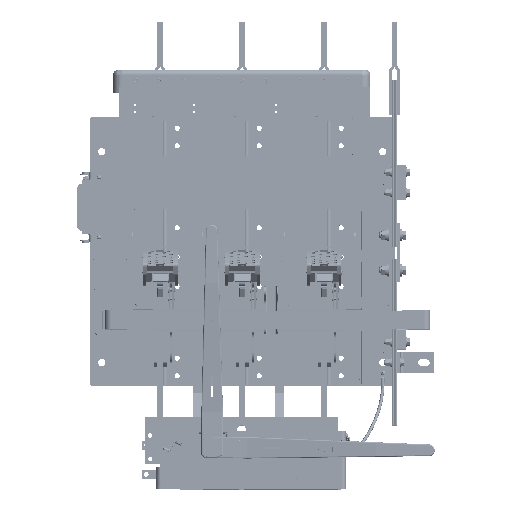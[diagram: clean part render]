
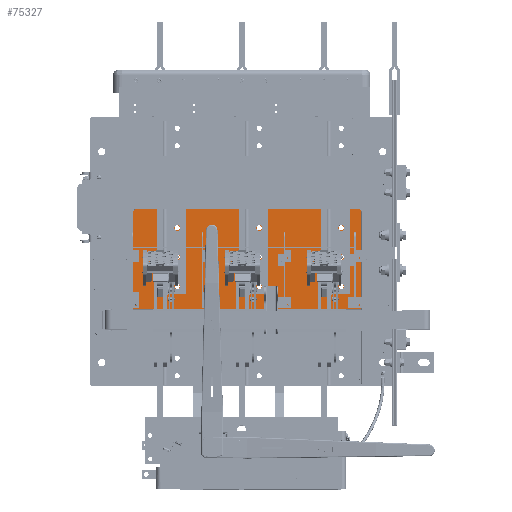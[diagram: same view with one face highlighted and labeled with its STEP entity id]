
A CAD part, top view. The second image highlights one B-rep face of the part: STEP entity #75327.
In plain terms, the highlighted planar face has unit normal (0, 0, 1).
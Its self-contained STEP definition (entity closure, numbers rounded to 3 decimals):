
#3374=FACE_BOUND('',#12080,.T.);
#3375=FACE_BOUND('',#12081,.T.);
#3376=FACE_BOUND('',#12082,.T.);
#3377=FACE_BOUND('',#12083,.T.);
#3378=FACE_BOUND('',#12084,.T.);
#3379=FACE_BOUND('',#12085,.T.);
#3380=FACE_BOUND('',#12086,.T.);
#3381=FACE_BOUND('',#12087,.T.);
#3382=FACE_BOUND('',#12088,.T.);
#3383=FACE_BOUND('',#12089,.T.);
#3384=FACE_BOUND('',#12090,.T.);
#3385=FACE_BOUND('',#12091,.T.);
#3386=FACE_BOUND('',#12092,.T.);
#3387=FACE_BOUND('',#12093,.T.);
#3388=FACE_BOUND('',#12094,.T.);
#3389=FACE_BOUND('',#12095,.T.);
#3390=FACE_BOUND('',#12096,.T.);
#4980=PLANE('',#82362);
#7654=FACE_OUTER_BOUND('',#12079,.T.);
#12079=EDGE_LOOP('',(#55974,#55975,#55976,#55977,#55978,#55979));
#12080=EDGE_LOOP('',(#55980));
#12081=EDGE_LOOP('',(#55981));
#12082=EDGE_LOOP('',(#55982));
#12083=EDGE_LOOP('',(#55983));
#12084=EDGE_LOOP('',(#55984));
#12085=EDGE_LOOP('',(#55985));
#12086=EDGE_LOOP('',(#55986));
#12087=EDGE_LOOP('',(#55987));
#12088=EDGE_LOOP('',(#55988));
#12089=EDGE_LOOP('',(#55989));
#12090=EDGE_LOOP('',(#55990));
#12091=EDGE_LOOP('',(#55991));
#12092=EDGE_LOOP('',(#55992));
#12093=EDGE_LOOP('',(#55993));
#12094=EDGE_LOOP('',(#55994));
#12095=EDGE_LOOP('',(#55995));
#12096=EDGE_LOOP('',(#55996));
#17280=CIRCLE('',#82145,0.07);
#17282=CIRCLE('',#82149,0.07);
#17284=CIRCLE('',#82153,0.07);
#17286=CIRCLE('',#82157,0.07);
#17288=CIRCLE('',#82161,0.07);
#17290=CIRCLE('',#82165,0.07);
#17292=CIRCLE('',#82169,0.07);
#17294=CIRCLE('',#82173,0.07);
#17298=CIRCLE('',#82181,0.219);
#17299=CIRCLE('',#82183,0.219);
#17300=CIRCLE('',#82185,0.219);
#17301=CIRCLE('',#82187,0.219);
#17302=CIRCLE('',#82189,0.219);
#17303=CIRCLE('',#82191,0.219);
#17304=CIRCLE('',#82193,0.219);
#17305=CIRCLE('',#82195,0.219);
#17306=CIRCLE('',#82197,0.219);
#17385=CIRCLE('',#82356,0.237);
#17386=CIRCLE('',#82361,0.237);
#21283=LINE('',#115970,#27754);
#21287=LINE('',#115979,#27758);
#21289=LINE('',#115983,#27760);
#21291=LINE('',#115987,#27762);
#27754=VECTOR('',#93604,0.394);
#27758=VECTOR('',#93614,0.394);
#27760=VECTOR('',#93618,0.394);
#27762=VECTOR('',#93622,0.394);
#34419=VERTEX_POINT('',#115511);
#34421=VERTEX_POINT('',#115518);
#34423=VERTEX_POINT('',#115525);
#34425=VERTEX_POINT('',#115532);
#34427=VERTEX_POINT('',#115539);
#34429=VERTEX_POINT('',#115546);
#34431=VERTEX_POINT('',#115553);
#34433=VERTEX_POINT('',#115560);
#34437=VERTEX_POINT('',#115574);
#34438=VERTEX_POINT('',#115578);
#34439=VERTEX_POINT('',#115582);
#34440=VERTEX_POINT('',#115586);
#34441=VERTEX_POINT('',#115590);
#34442=VERTEX_POINT('',#115594);
#34443=VERTEX_POINT('',#115598);
#34444=VERTEX_POINT('',#115602);
#34445=VERTEX_POINT('',#115606);
#34557=VERTEX_POINT('',#115968);
#34558=VERTEX_POINT('',#115969);
#34559=VERTEX_POINT('',#115974);
#34560=VERTEX_POINT('',#115978);
#34561=VERTEX_POINT('',#115982);
#34562=VERTEX_POINT('',#115986);
#42314=EDGE_CURVE('',#34419,#34419,#17280,.T.);
#42317=EDGE_CURVE('',#34421,#34421,#17282,.T.);
#42320=EDGE_CURVE('',#34423,#34423,#17284,.T.);
#42323=EDGE_CURVE('',#34425,#34425,#17286,.T.);
#42326=EDGE_CURVE('',#34427,#34427,#17288,.T.);
#42329=EDGE_CURVE('',#34429,#34429,#17290,.T.);
#42332=EDGE_CURVE('',#34431,#34431,#17292,.T.);
#42335=EDGE_CURVE('',#34433,#34433,#17294,.T.);
#42341=EDGE_CURVE('',#34437,#34437,#17298,.T.);
#42343=EDGE_CURVE('',#34438,#34438,#17299,.T.);
#42345=EDGE_CURVE('',#34439,#34439,#17300,.T.);
#42347=EDGE_CURVE('',#34440,#34440,#17301,.T.);
#42349=EDGE_CURVE('',#34441,#34441,#17302,.T.);
#42351=EDGE_CURVE('',#34442,#34442,#17303,.T.);
#42353=EDGE_CURVE('',#34443,#34443,#17304,.T.);
#42355=EDGE_CURVE('',#34444,#34444,#17305,.T.);
#42357=EDGE_CURVE('',#34445,#34445,#17306,.T.);
#42528=EDGE_CURVE('',#34557,#34558,#21283,.T.);
#42531=EDGE_CURVE('',#34558,#34559,#17385,.T.);
#42533=EDGE_CURVE('',#34559,#34560,#21287,.T.);
#42535=EDGE_CURVE('',#34560,#34561,#21289,.T.);
#42537=EDGE_CURVE('',#34561,#34562,#21291,.T.);
#42539=EDGE_CURVE('',#34562,#34557,#17386,.T.);
#55974=ORIENTED_EDGE('',*,*,#42528,.F.);
#55975=ORIENTED_EDGE('',*,*,#42539,.F.);
#55976=ORIENTED_EDGE('',*,*,#42537,.F.);
#55977=ORIENTED_EDGE('',*,*,#42535,.F.);
#55978=ORIENTED_EDGE('',*,*,#42533,.F.);
#55979=ORIENTED_EDGE('',*,*,#42531,.F.);
#55980=ORIENTED_EDGE('',*,*,#42314,.T.);
#55981=ORIENTED_EDGE('',*,*,#42317,.T.);
#55982=ORIENTED_EDGE('',*,*,#42320,.T.);
#55983=ORIENTED_EDGE('',*,*,#42323,.T.);
#55984=ORIENTED_EDGE('',*,*,#42326,.T.);
#55985=ORIENTED_EDGE('',*,*,#42329,.T.);
#55986=ORIENTED_EDGE('',*,*,#42332,.T.);
#55987=ORIENTED_EDGE('',*,*,#42335,.T.);
#55988=ORIENTED_EDGE('',*,*,#42341,.T.);
#55989=ORIENTED_EDGE('',*,*,#42343,.T.);
#55990=ORIENTED_EDGE('',*,*,#42345,.T.);
#55991=ORIENTED_EDGE('',*,*,#42347,.T.);
#55992=ORIENTED_EDGE('',*,*,#42349,.T.);
#55993=ORIENTED_EDGE('',*,*,#42351,.T.);
#55994=ORIENTED_EDGE('',*,*,#42353,.T.);
#55995=ORIENTED_EDGE('',*,*,#42355,.T.);
#55996=ORIENTED_EDGE('',*,*,#42357,.T.);
#75327=ADVANCED_FACE('',(#7654,#3374,#3375,#3376,#3377,#3378,#3379,#3380,
#3381,#3382,#3383,#3384,#3385,#3386,#3387,#3388,#3389,#3390),#4980,.T.);
#82145=AXIS2_PLACEMENT_3D('',#115512,#93075,#93076);
#82149=AXIS2_PLACEMENT_3D('',#115519,#93084,#93085);
#82153=AXIS2_PLACEMENT_3D('',#115526,#93093,#93094);
#82157=AXIS2_PLACEMENT_3D('',#115533,#93102,#93103);
#82161=AXIS2_PLACEMENT_3D('',#115540,#93111,#93112);
#82165=AXIS2_PLACEMENT_3D('',#115547,#93120,#93121);
#82169=AXIS2_PLACEMENT_3D('',#115554,#93129,#93130);
#82173=AXIS2_PLACEMENT_3D('',#115561,#93138,#93139);
#82181=AXIS2_PLACEMENT_3D('',#115575,#93156,#93157);
#82183=AXIS2_PLACEMENT_3D('',#115579,#93161,#93162);
#82185=AXIS2_PLACEMENT_3D('',#115583,#93166,#93167);
#82187=AXIS2_PLACEMENT_3D('',#115587,#93171,#93172);
#82189=AXIS2_PLACEMENT_3D('',#115591,#93176,#93177);
#82191=AXIS2_PLACEMENT_3D('',#115595,#93181,#93182);
#82193=AXIS2_PLACEMENT_3D('',#115599,#93186,#93187);
#82195=AXIS2_PLACEMENT_3D('',#115603,#93191,#93192);
#82197=AXIS2_PLACEMENT_3D('',#115607,#93196,#93197);
#82356=AXIS2_PLACEMENT_3D('',#115975,#93609,#93610);
#82361=AXIS2_PLACEMENT_3D('',#115990,#93626,#93627);
#82362=AXIS2_PLACEMENT_3D('',#115991,#93628,#93629);
#93075=DIRECTION('center_axis',(0.,0.,-1.));
#93076=DIRECTION('ref_axis',(-1.,0.,0.));
#93084=DIRECTION('center_axis',(0.,0.,-1.));
#93085=DIRECTION('ref_axis',(-1.,0.,0.));
#93093=DIRECTION('center_axis',(0.,0.,-1.));
#93094=DIRECTION('ref_axis',(-1.,0.,0.));
#93102=DIRECTION('center_axis',(0.,0.,-1.));
#93103=DIRECTION('ref_axis',(-1.,0.,0.));
#93111=DIRECTION('center_axis',(0.,0.,-1.));
#93112=DIRECTION('ref_axis',(-1.,0.,0.));
#93120=DIRECTION('center_axis',(0.,0.,-1.));
#93121=DIRECTION('ref_axis',(-1.,0.,0.));
#93129=DIRECTION('center_axis',(0.,0.,-1.));
#93130=DIRECTION('ref_axis',(-1.,0.,0.));
#93138=DIRECTION('center_axis',(0.,0.,-1.));
#93139=DIRECTION('ref_axis',(-1.,0.,0.));
#93156=DIRECTION('center_axis',(0.,0.,-1.));
#93157=DIRECTION('ref_axis',(-1.,0.,0.));
#93161=DIRECTION('center_axis',(0.,0.,-1.));
#93162=DIRECTION('ref_axis',(-1.,0.,0.));
#93166=DIRECTION('center_axis',(0.,0.,-1.));
#93167=DIRECTION('ref_axis',(-1.,0.,0.));
#93171=DIRECTION('center_axis',(0.,0.,-1.));
#93172=DIRECTION('ref_axis',(-1.,0.,0.));
#93176=DIRECTION('center_axis',(0.,0.,-1.));
#93177=DIRECTION('ref_axis',(-1.,0.,0.));
#93181=DIRECTION('center_axis',(0.,0.,-1.));
#93182=DIRECTION('ref_axis',(-1.,0.,0.));
#93186=DIRECTION('center_axis',(0.,0.,-1.));
#93187=DIRECTION('ref_axis',(-1.,0.,0.));
#93191=DIRECTION('center_axis',(0.,0.,-1.));
#93192=DIRECTION('ref_axis',(-1.,0.,0.));
#93196=DIRECTION('center_axis',(0.,0.,-1.));
#93197=DIRECTION('ref_axis',(-1.,0.,0.));
#93604=DIRECTION('',(1.,0.,0.));
#93609=DIRECTION('center_axis',(0.,0.,-1.));
#93610=DIRECTION('ref_axis',(-1.,0.,0.));
#93614=DIRECTION('',(0.,-1.,0.));
#93618=DIRECTION('',(-1.,0.,0.));
#93622=DIRECTION('',(0.,1.,0.));
#93626=DIRECTION('center_axis',(0.,0.,-1.));
#93627=DIRECTION('ref_axis',(0.,-1.,0.));
#93628=DIRECTION('center_axis',(0.,0.,1.));
#93629=DIRECTION('ref_axis',(1.,0.,0.));
#115511=CARTESIAN_POINT('',(38.758,-12.063,0.5));
#115512=CARTESIAN_POINT('Origin',(38.688,-12.063,0.5));
#115518=CARTESIAN_POINT('',(45.758,-12.063,0.5));
#115519=CARTESIAN_POINT('Origin',(45.688,-12.063,0.5));
#115525=CARTESIAN_POINT('',(51.758,-12.063,0.5));
#115526=CARTESIAN_POINT('Origin',(51.688,-12.063,0.5));
#115532=CARTESIAN_POINT('',(51.758,-16.063,0.5));
#115533=CARTESIAN_POINT('Origin',(51.688,-16.063,0.5));
#115539=CARTESIAN_POINT('',(45.758,-16.063,0.5));
#115540=CARTESIAN_POINT('Origin',(45.688,-16.063,0.5));
#115546=CARTESIAN_POINT('',(38.758,-16.063,0.5));
#115547=CARTESIAN_POINT('Origin',(38.688,-16.063,0.5));
#115553=CARTESIAN_POINT('',(32.758,-16.063,0.5));
#115554=CARTESIAN_POINT('Origin',(32.688,-16.063,0.5));
#115560=CARTESIAN_POINT('',(32.758,-12.063,0.5));
#115561=CARTESIAN_POINT('Origin',(32.688,-12.063,0.5));
#115574=CARTESIAN_POINT('',(50.406,-9.5,0.5));
#115575=CARTESIAN_POINT('Origin',(50.188,-9.5,0.5));
#115578=CARTESIAN_POINT('',(50.406,-12.,0.5));
#115579=CARTESIAN_POINT('Origin',(50.188,-12.,0.5));
#115582=CARTESIAN_POINT('',(50.406,-14.5,0.5));
#115583=CARTESIAN_POINT('Origin',(50.188,-14.5,0.5));
#115586=CARTESIAN_POINT('',(43.406,-9.5,0.5));
#115587=CARTESIAN_POINT('Origin',(43.188,-9.5,0.5));
#115590=CARTESIAN_POINT('',(43.406,-12.,0.5));
#115591=CARTESIAN_POINT('Origin',(43.188,-12.,0.5));
#115594=CARTESIAN_POINT('',(43.406,-14.5,0.5));
#115595=CARTESIAN_POINT('Origin',(43.188,-14.5,0.5));
#115598=CARTESIAN_POINT('',(36.406,-14.5,0.5));
#115599=CARTESIAN_POINT('Origin',(36.188,-14.5,0.5));
#115602=CARTESIAN_POINT('',(36.406,-12.,0.5));
#115603=CARTESIAN_POINT('Origin',(36.188,-12.,0.5));
#115606=CARTESIAN_POINT('',(36.406,-9.5,0.5));
#115607=CARTESIAN_POINT('Origin',(36.188,-9.5,0.5));
#115968=CARTESIAN_POINT('',(32.688,-7.888,0.5));
#115969=CARTESIAN_POINT('',(51.688,-7.888,0.5));
#115970=CARTESIAN_POINT('',(32.688,-7.888,0.5));
#115974=CARTESIAN_POINT('',(51.924,-8.125,0.5));
#115975=CARTESIAN_POINT('Origin',(51.688,-8.125,0.5));
#115978=CARTESIAN_POINT('',(51.924,-16.461,0.5));
#115979=CARTESIAN_POINT('',(51.924,-8.125,0.5));
#115982=CARTESIAN_POINT('',(32.451,-16.461,0.5));
#115983=CARTESIAN_POINT('',(51.938,-16.461,0.5));
#115986=CARTESIAN_POINT('',(32.451,-8.125,0.5));
#115987=CARTESIAN_POINT('',(32.451,-16.474,0.5));
#115990=CARTESIAN_POINT('Origin',(32.688,-8.125,0.5));
#115991=CARTESIAN_POINT('Origin',(42.188,-12.191,0.5));
